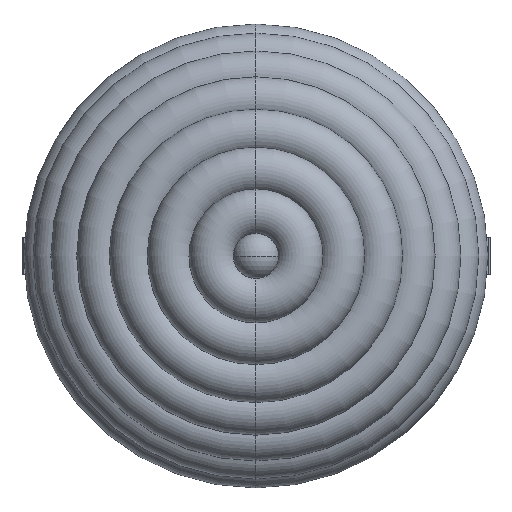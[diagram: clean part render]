
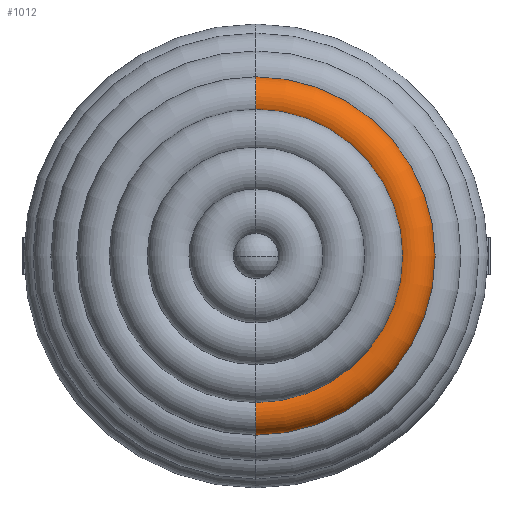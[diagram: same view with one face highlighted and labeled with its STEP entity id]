
A CAD part, front view. The second image highlights one B-rep face of the part: STEP entity #1012.
In plain terms, the highlighted toroidal (fillet/blend) face has major radius 33.441 mm and minor radius 5 mm.
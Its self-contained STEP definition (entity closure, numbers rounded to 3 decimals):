
#18 = CIRCLE ( 'NONE', #2431, 37.578 ) ;
#119 = VERTEX_POINT ( 'NONE', #1650 ) ;
#229 = TOROIDAL_SURFACE ( 'NONE', #611, 33.442, 5. ) ;
#286 = DIRECTION ( 'NONE',  ( 1., 0., 0. ) ) ;
#309 = VERTEX_POINT ( 'NONE', #2990 ) ;
#312 = DIRECTION ( 'NONE',  ( 0., 0., 1. ) ) ;
#330 = ORIENTED_EDGE ( 'NONE', *, *, #3723, .T. ) ;
#350 = VERTEX_POINT ( 'NONE', #717 ) ;
#527 = DIRECTION ( 'NONE',  ( 0., 0., -1. ) ) ;
#601 = VERTEX_POINT ( 'NONE', #2511 ) ;
#611 = AXIS2_PLACEMENT_3D ( 'NONE', #1268, #1930, #3195 ) ;
#717 = CARTESIAN_POINT ( 'NONE',  ( 0., -34.518, 31.08 ) ) ;
#769 = EDGE_CURVE ( 'NONE', #350, #601, #3182, .T. ) ;
#836 = DIRECTION ( 'NONE',  ( 0., 1., 0. ) ) ;
#957 = CARTESIAN_POINT ( 'NONE',  ( 0., -30.111, 33.442 ) ) ;
#1012 = ADVANCED_FACE ( 'NONE', ( #1534 ), #229, .T. ) ;
#1268 = CARTESIAN_POINT ( 'NONE',  ( 0., -30.111, 0. ) ) ;
#1359 = EDGE_CURVE ( 'NONE', #350, #309, #3636, .T. ) ;
#1401 = AXIS2_PLACEMENT_3D ( 'NONE', #957, #3720, #312 ) ;
#1495 = CARTESIAN_POINT ( 'NONE',  ( 0., -27.302, 0. ) ) ;
#1506 = AXIS2_PLACEMENT_3D ( 'NONE', #3341, #286, #527 ) ;
#1534 = FACE_OUTER_BOUND ( 'NONE', #4053, .T. ) ;
#1650 = CARTESIAN_POINT ( 'NONE',  ( 0., -27.302, -37.578 ) ) ;
#1930 = DIRECTION ( 'NONE',  ( 0., 1., 0. ) ) ;
#1978 = CARTESIAN_POINT ( 'NONE',  ( 0., -34.518, 0. ) ) ;
#2051 = AXIS2_PLACEMENT_3D ( 'NONE', #1978, #2342, #3237 ) ;
#2342 = DIRECTION ( 'NONE',  ( 0., 1., 0. ) ) ;
#2356 = ORIENTED_EDGE ( 'NONE', *, *, #769, .T. ) ;
#2431 = AXIS2_PLACEMENT_3D ( 'NONE', #1495, #836, #3927 ) ;
#2511 = CARTESIAN_POINT ( 'NONE',  ( 0., -34.518, -31.08 ) ) ;
#2990 = CARTESIAN_POINT ( 'NONE',  ( 0., -27.302, 37.578 ) ) ;
#3182 = CIRCLE ( 'NONE', #2051, 31.08 ) ;
#3195 = DIRECTION ( 'NONE',  ( 0., 0., 1. ) ) ;
#3237 = DIRECTION ( 'NONE',  ( 0., 0., 1. ) ) ;
#3341 = CARTESIAN_POINT ( 'NONE',  ( 0., -30.111, -33.442 ) ) ;
#3342 = EDGE_CURVE ( 'NONE', #309, #119, #18, .T. ) ;
#3372 = ORIENTED_EDGE ( 'NONE', *, *, #3342, .F. ) ;
#3416 = CIRCLE ( 'NONE', #1506, 5. ) ;
#3636 = CIRCLE ( 'NONE', #1401, 5. ) ;
#3720 = DIRECTION ( 'NONE',  ( -1., 0., 0. ) ) ;
#3723 = EDGE_CURVE ( 'NONE', #601, #119, #3416, .T. ) ;
#3927 = DIRECTION ( 'NONE',  ( 0., 0., 1. ) ) ;
#4016 = ORIENTED_EDGE ( 'NONE', *, *, #1359, .F. ) ;
#4053 = EDGE_LOOP ( 'NONE', ( #2356, #330, #3372, #4016 ) ) ;
